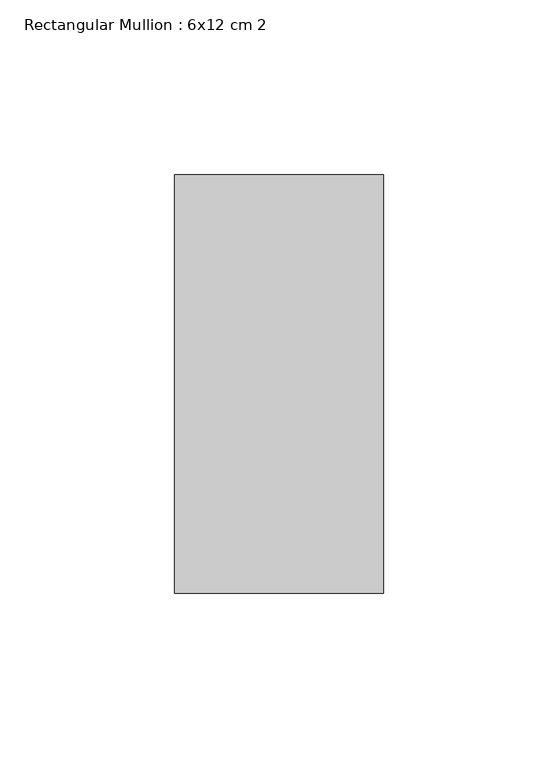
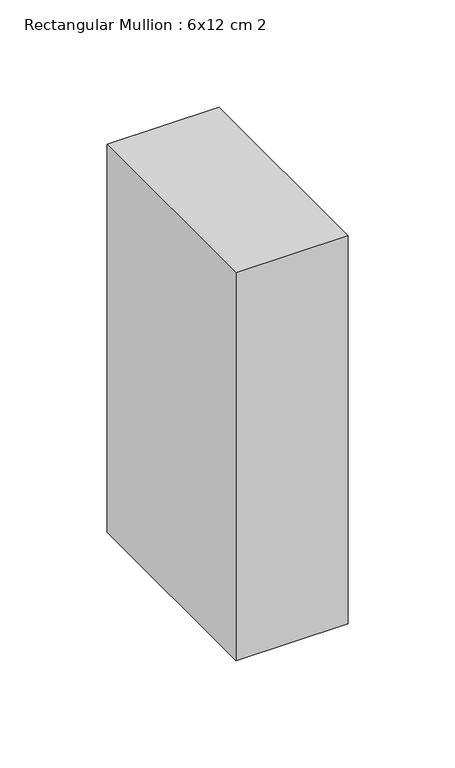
"""IFC4 building model written with IfcOpenShell, lengths in millimetres: member geometry, Rectangular Mullion : 6x12 cm 2."""

from ifc_helpers import new_model, si_unit, frame, origin, place, context, project, spatial, polyline, outline, extrude, source, transform, mapped, element, save


def rectangular_mullion_6x12_cm_2_3cb5a3d9(model_context):
    return source(origin(), model_context, "Body", "SweptSolid", [
        extrude(outline(polyline([(0.0, 205.0), (0.0, 85.0), (-60.0, 85.0), (-60.0, 205.0), (0.0, 205.0)])), frame((0.0, 0.0, -220.4513144), z_axis=(0.0, 0.0, 1.0), x_axis=(1.0, 0.0, 0.0)), (0.0, 0.0, 1.0), 220.4513144),
    ])


if __name__ == "__main__":
    model = new_model("IFC4")
    model_context = context("Model", 3, world=origin())
    ifc_project = project(units=[si_unit("LENGTHUNIT", "METRE", prefix="MILLI")], contexts=[model_context])
    site = spatial("IfcSite", under=ifc_project)
    building = spatial("IfcBuilding", under=site)
    placement = place(None, origin())
    rectangular_mullion_6x12_cm_2_shape = rectangular_mullion_6x12_cm_2_3cb5a3d9(model_context)
    element("IfcMember", 1, ObjectType="Rectangular Mullion : 6x12 cm 2", at=placement, inside=building, context=model_context, shape_type="MappedRepresentation", body=[
        mapped(rectangular_mullion_6x12_cm_2_shape, transform((0.0, 0.0, 0.0), x_axis=(1.0, 0.0, 0.0), y_axis=(0.0, 1.0, 0.0), z_axis=(0.0, 0.0, 1.0))),
    ])
    save(model, "model.ifc")
